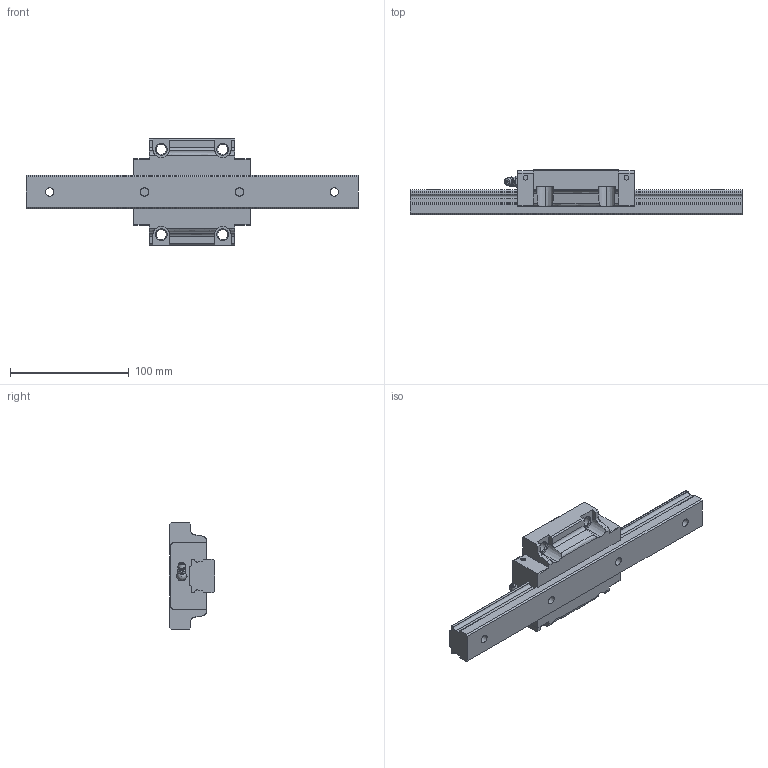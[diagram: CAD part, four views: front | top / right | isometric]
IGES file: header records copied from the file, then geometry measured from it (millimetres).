
Start section: Data from Parasolid IGES Translator 26.0.171, Copyright(c) 2006 Siemens PLM Software. All Rights Reserved.
Global section: file name: SVR30C1SS-280L_G20_0_B-M6F_91_0_0_0_1.igs; native system: By Siemens PLM Incorporated; preprocessor: XPlus GENERIC/IGES 26.0.171; author: Noname; organization: Noname; date: 20240517.072249; units: millimetre
Bounding box: 280 x 38 x 90 mm (x, y, z)
Surface area: 62059.7 mm2 (no closed solid volume)
Topology: 0 solids, 0 shells, 223 faces, 1240 edges, 1206 vertices
Faces by surface type: extrusion 120, revolution 103
